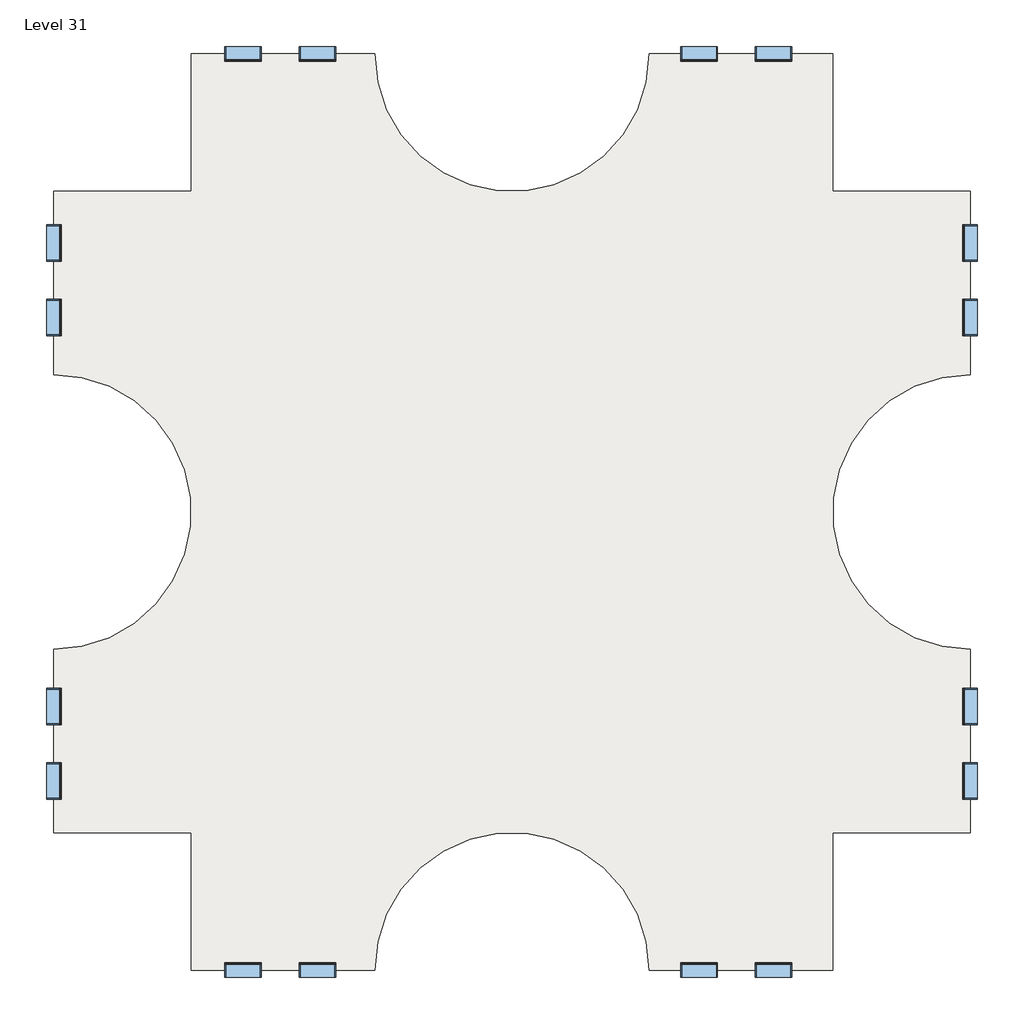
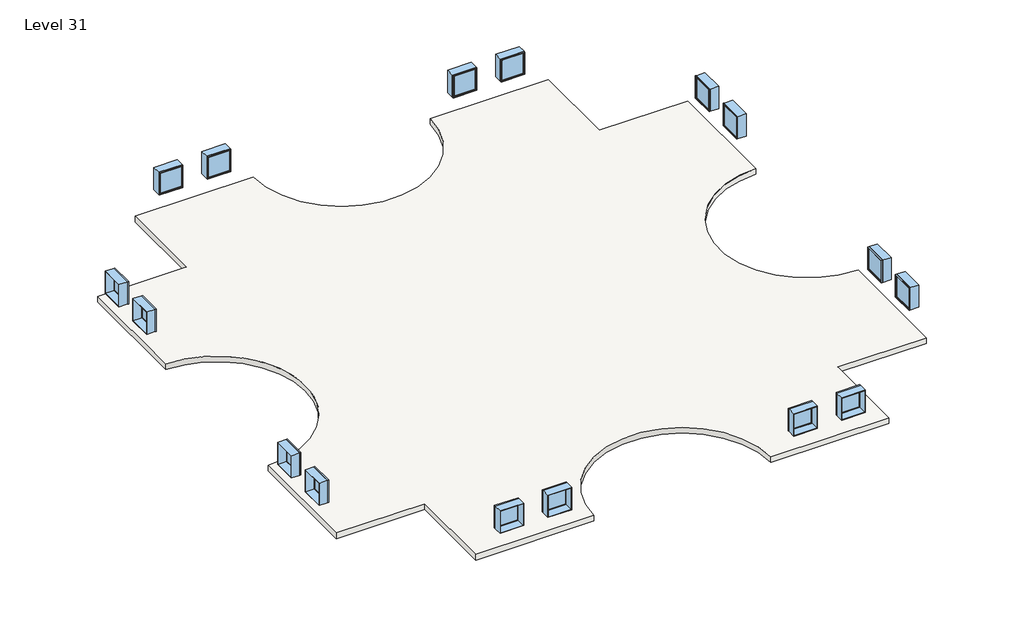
# One storey: 16 windows, 3 slabs.
"""IFC4 building model written with IfcOpenShell, lengths in millimetres."""

import ifcopenshell
import ifcopenshell.guid

model = None  # the IFC model being written
_history = None  # IfcOwnerHistory: only IFC2X3 demands one
_inside = {}  # id of a spatial element -> (the spatial element, [elements in it])
_under = {}  # id of a project, library or spatial element -> (it, [spatial elements below it])
_declared = {}  # id of a project -> (the project, [libraries it declares])
_typed = {}  # id of a type object -> (the type object, [elements of that type])
_made_of = {}  # id of a material, layer set ... -> (it, [elements and type objects made of it])


def new_model(schema):
    """Start an empty IFC model of exactly this schema.

    Asked for "IFC4X3", IfcOpenShell would pick the latest addendum, in which some entities
    have other attributes; the version numbers below select the first issue.
    IFC2X3 requires an IfcOwnerHistory on every rooted entity: one is made here for all.
    """
    global model, _history
    if schema == "IFC4X3":
        model = ifcopenshell.file(schema_version=(4, 3, 0, 0))
    else:
        model = ifcopenshell.file(schema=schema)
    _inside.clear()
    _under.clear()
    _declared.clear()
    _typed.clear()
    _made_of.clear()
    _history = None
    if model.schema == "IFC2X3":
        org = make("IfcOrganization", Name="unknown")
        user = make(
            "IfcPersonAndOrganization",
            ThePerson=make("IfcPerson", FamilyName="unknown"),
            TheOrganization=org,
        )
        app = make(
            "IfcApplication",
            ApplicationDeveloper=org,
            Version="unknown",
            ApplicationFullName="unknown",
            ApplicationIdentifier="unknown",
        )
        _history = make(
            "IfcOwnerHistory",
            OwningUser=user,
            OwningApplication=app,
            ChangeAction="ADDED",
            CreationDate=0,
        )
    return model


def make(cls, **values):
    """One entity of the class cls with the attributes given. An attribute that is None is left unset."""
    return model.create_entity(
        cls, **{name: value for name, value in values.items() if value is not None}
    )


def rooted(cls, **values):
    """An entity with a GlobalId (a new one), such as an element, a storey or a relation."""
    return make(cls, GlobalId=ifcopenshell.guid.new(), OwnerHistory=_history, **values)


def si_unit(unit_type, name, prefix=None):
    """IfcSIUnit, for example si_unit("LENGTHUNIT", "METRE", prefix="MILLI")."""
    return make("IfcSIUnit", UnitType=unit_type, Prefix=prefix, Name=name)


def assignment(units):
    """IfcUnitAssignment: the units of a project."""
    return None if units is None else make("IfcUnitAssignment", Units=units)


def point(xyz):
    """IfcCartesianPoint."""
    return None if xyz is None else make("IfcCartesianPoint", Coordinates=xyz)


def direction(xyz):
    """IfcDirection."""
    return None if xyz is None else make("IfcDirection", DirectionRatios=xyz)


def frame(location, z_axis=None, x_axis=None):
    """IfcAxis2Placement3D, a coordinate frame: its origin and axes. An axis left out is left unset."""
    return make(
        "IfcAxis2Placement3D",
        Location=point(location),
        Axis=direction(z_axis),
        RefDirection=direction(x_axis),
    )


def frame_2d(location, x_axis=None):
    """IfcAxis2Placement2D, a coordinate frame in the plane: its origin and x axis."""
    return make(
        "IfcAxis2Placement2D", Location=point(location), RefDirection=direction(x_axis)
    )


def origin():
    """The frame at (0, 0, 0) with its axes left unset."""
    return frame((0.0, 0.0, 0.0))


def place(relative_to, where):
    """IfcLocalPlacement: puts the frame where relative to a parent placement (None: the world)."""
    return make(
        "IfcLocalPlacement", PlacementRelTo=relative_to, RelativePlacement=where
    )


def context(
    kind, dimensions, precision=None, world=None, true_north=None, identifier=None
):
    """IfcGeometricRepresentationContext, for example the 3D "Model" context."""
    return make(
        "IfcGeometricRepresentationContext",
        ContextIdentifier=identifier,
        ContextType=kind,
        CoordinateSpaceDimension=dimensions,
        Precision=precision,
        WorldCoordinateSystem=world,
        TrueNorth=true_north,
    )


def project(units=None, contexts=None):
    """IfcProject with its units and contexts."""
    return rooted(
        "IfcProject",
        Name="project",
        RepresentationContexts=contexts,
        UnitsInContext=assignment(units),
    )


def spatial(cls, under=None, at=None, **own):
    """A site, building, storey or space (cls), placed at a placement, below another one or the project."""
    s = rooted(cls, ObjectPlacement=at, **own)
    if under is not None:
        _under.setdefault(under.id(), (under, []))[1].append(s)
    return s


def polyline(points):
    """IfcPolyline through the points."""
    return make("IfcPolyline", Points=[point(p) for p in points])


def circle_curve(where, radius):
    """IfcCircle in the frame where."""
    return make("IfcCircle", Position=where, Radius=radius)


def trimmed(basis, trim1, trim2, sense, master):
    """IfcTrimmedCurve: the piece of a basis curve between two trims."""
    return make(
        "IfcTrimmedCurve",
        BasisCurve=basis,
        Trim1=trim1,
        Trim2=trim2,
        SenseAgreement=sense,
        MasterRepresentation=master,
    )


def segment(curve, same_sense, transition):
    """IfcCompositeCurveSegment."""
    return make(
        "IfcCompositeCurveSegment",
        Transition=transition,
        SameSense=same_sense,
        ParentCurve=curve,
    )


def composite_curve(segments, self_intersect=None):
    """IfcCompositeCurve: segments joined end to end."""
    return make("IfcCompositeCurve", Segments=segments, SelfIntersect=self_intersect)


def outline(outer, holes=None, kind="AREA"):
    """IfcArbitraryClosedProfileDef: a profile drawn as a closed curve; with holes, ...WithVoids."""
    if holes is None:
        return make("IfcArbitraryClosedProfileDef", ProfileType=kind, OuterCurve=outer)
    return make(
        "IfcArbitraryProfileDefWithVoids",
        ProfileType=kind,
        OuterCurve=outer,
        InnerCurves=holes,
    )


def extrude(swept, where, along, depth):
    """IfcExtrudedAreaSolid: the profile swept, set in the frame where, extruded along a direction by depth."""
    return make(
        "IfcExtrudedAreaSolid",
        SweptArea=swept,
        Position=where,
        ExtrudedDirection=direction(along),
        Depth=depth,
    )


def shape(context_of_items, identifier, shape_type, items):
    """IfcShapeRepresentation: the items that make up one representation, for example the "Body"."""
    return make(
        "IfcShapeRepresentation",
        ContextOfItems=context_of_items,
        RepresentationIdentifier=identifier,
        RepresentationType=shape_type,
        Items=items,
    )


def source(mapping_origin, context_of_items, identifier, shape_type, items):
    """IfcRepresentationMap: a shape defined once, which mapped items show again and again."""
    return make(
        "IfcRepresentationMap",
        MappingOrigin=mapping_origin,
        MappedRepresentation=shape(context_of_items, identifier, shape_type, items),
    )


def transform(
    local_origin,
    x_axis=None,
    y_axis=None,
    z_axis=None,
    scale=None,
    scale2=None,
    scale3=None,
    uniform=True,
):
    """IfcCartesianTransformationOperator3D, or its non-uniform kind. x_axis, y_axis, z_axis: its Axis1, 2, 3."""
    if uniform:
        return make(
            "IfcCartesianTransformationOperator3D",
            Axis1=direction(x_axis),
            Axis2=direction(y_axis),
            LocalOrigin=point(local_origin),
            Scale=scale,
            Axis3=direction(z_axis),
        )
    return make(
        "IfcCartesianTransformationOperator3DnonUniform",
        Axis1=direction(x_axis),
        Axis2=direction(y_axis),
        LocalOrigin=point(local_origin),
        Scale=scale,
        Axis3=direction(z_axis),
        Scale2=scale2,
        Scale3=scale3,
    )


def mapped(mapping_source, mapping_target):
    """IfcMappedItem: shows the shape of a source again, moved by a transform."""
    return make(
        "IfcMappedItem", MappingSource=mapping_source, MappingTarget=mapping_target
    )


def made_of(thing, what):
    """Note that an element or type object is made of a material, layer set ...; save() writes the relation."""
    if what is not None:
        _made_of.setdefault(what.id(), (what, []))[1].append(thing)
    return thing


def element(
    cls,
    number,
    at=None,
    inside=None,
    cuts=None,
    type_object=None,
    material=None,
    context=None,
    identifier="Body",
    shape_type=None,
    held_by="IfcProductDefinitionShape",
    body=None,
    shapes=None,
    **own,
):
    """One element of the class cls, such as IfcWall. Its Tag is "e" and its number.

    at: its placement. inside: the storey or other place that contains it. cuts: it is an
    opening in that element (IfcRelVoidsElement). A single representation is given by context,
    identifier, shape_type and body (its items); several are given by shapes. held_by: the class
    of the entity that holds the representations. save() writes the other relations.
    """
    e = rooted(cls, Tag="e%d" % number, ObjectPlacement=at, **own)
    if body is not None:
        shapes = [shape(context, identifier, shape_type, body)]
    if shapes is not None:
        e.Representation = make(held_by, Representations=shapes)
    if inside is not None:
        _inside.setdefault(inside.id(), (inside, []))[1].append(e)
    if cuts is not None:
        rooted(
            "IfcRelVoidsElement", RelatingBuildingElement=cuts, RelatedOpeningElement=e
        )
    if type_object is not None:
        _typed.setdefault(type_object.id(), (type_object, []))[1].append(e)
    return made_of(e, material)


def aggregate(whole, parts):
    """IfcRelAggregates: a whole, such as a stair, and the parts it consists of."""
    return rooted("IfcRelAggregates", RelatingObject=whole, RelatedObjects=parts)


def save(model, path):
    """Write the relations noted so far, then the file.

    IfcRelAggregates (storeys below a building ...), IfcRelContainedInSpatialStructure (elements
    in a storey), IfcRelDefinesByType, IfcRelAssociatesMaterial and IfcRelDeclares: one each for
    every whole, place, type object, material and project.
    """
    for whole, parts in _under.values():
        aggregate(whole, parts)
    for where, things in _inside.values():
        rooted(
            "IfcRelContainedInSpatialStructure",
            RelatedElements=things,
            RelatingStructure=where,
        )
    for kind, things in _typed.values():
        rooted("IfcRelDefinesByType", RelatedObjects=things, RelatingType=kind)
    for what, things in _made_of.values():
        rooted("IfcRelAssociatesMaterial", RelatedObjects=things, RelatingMaterial=what)
    for by, libraries in _declared.values():
        rooted("IfcRelDeclares", RelatingContext=by, RelatedDefinitions=libraries)
    model.write(path)


def window_d0035ecf(model_context):
    return source(origin(), model_context, "Body", "SweptSolid", [
        extrude(outline(polyline([(508.0, 200.025), (-584.2, 200.025), (-584.2, 212.725), (508.0, 212.725), (508.0, 200.025)])), frame((0.0, 0.0, 977.9), z_axis=(0.0, 0.0, 1.0), x_axis=(1.0, 0.0, 0.0)), (0.0, 0.0, 1.0), 1092.2),
        extrude(outline(polyline([(2114.55, -628.65), (933.45, -628.65), (933.45, 552.45), (2114.55, 552.45), (2114.55, -628.65)]), holes=[polyline([(2070.1, -584.2), (2070.1, 508.0), (977.9, 508.0), (977.9, -584.2), (2070.1, -584.2)])]), frame((0.0, 184.15, 0.0), z_axis=(0.0, 1.0, 0.0), x_axis=(0.0, 0.0, 1.0)), (0.0, 0.0, 1.0), 44.45),
        extrude(outline(polyline([(2133.6, -647.7), (914.4, -647.7), (914.4, 571.5), (2133.6, 571.5), (2133.6, -647.7)]), holes=[polyline([(2101.85, -615.95), (2101.85, 539.75), (946.15, 539.75), (946.15, -615.95), (2101.85, -615.95)])]), frame((0.0, -247.65, 0.0), z_axis=(0.0, 1.0, 0.0), x_axis=(0.0, 0.0, 1.0)), (0.0, 0.0, 1.0), 431.8),
        extrude(outline(polyline([(2133.6, 571.5), (2133.6, -647.7), (914.4, -647.7), (914.4, 571.5), (2133.6, 571.5)]), holes=[polyline([(2114.55, 552.45), (933.45, 552.45), (933.45, -628.65), (2114.55, -628.65), (2114.55, 552.45)])]), frame((0.0, 184.15, 0.0), z_axis=(0.0, 1.0, 0.0), x_axis=(0.0, 0.0, 1.0)), (0.0, 0.0, 1.0), 63.5),
    ])


def window_d434eb62(model_context):
    return source(origin(), model_context, "Body", "SweptSolid", [
        extrude(outline(polyline([(508.0, -200.025), (508.0, -212.725), (-584.2, -212.725), (-584.2, -200.025), (508.0, -200.025)])), frame((0.0, 0.0, 977.9), z_axis=(0.0, 0.0, 1.0), x_axis=(1.0, 0.0, 0.0)), (0.0, 0.0, 1.0), 1092.2),
        extrude(outline(polyline([(2114.55, -628.65), (933.45, -628.65), (933.45, 552.45), (2114.55, 552.45), (2114.55, -628.65)]), holes=[polyline([(2070.1, -584.2), (2070.1, 508.0), (977.9, 508.0), (977.9, -584.2), (2070.1, -584.2)])]), frame((0.0, -228.6, 0.0), z_axis=(0.0, 1.0, 0.0), x_axis=(0.0, 0.0, 1.0)), (0.0, 0.0, 1.0), 44.45),
        extrude(outline(polyline([(2133.6, -647.7), (914.4, -647.7), (914.4, 571.5), (2133.6, 571.5), (2133.6, -647.7)]), holes=[polyline([(2101.85, -615.95), (2101.85, 539.75), (946.15, 539.75), (946.15, -615.95), (2101.85, -615.95)])]), frame((0.0, -184.15, 0.0), z_axis=(0.0, 1.0, 0.0), x_axis=(0.0, 0.0, 1.0)), (0.0, 0.0, 1.0), 431.8),
        extrude(outline(polyline([(2133.6, 571.5), (2133.6, -647.7), (914.4, -647.7), (914.4, 571.5), (2133.6, 571.5)]), holes=[polyline([(2114.55, 552.45), (933.45, 552.45), (933.45, -628.65), (2114.55, -628.65), (2114.55, 552.45)])]), frame((0.0, -247.65, 0.0), z_axis=(0.0, 1.0, 0.0), x_axis=(0.0, 0.0, 1.0)), (0.0, 0.0, 1.0), 63.5),
    ])


model = new_model("IFC4")

# Units and contexts
model_context = context("Model", 3, world=origin())
ifc_project = project(units=[si_unit("LENGTHUNIT", "METRE", prefix="MILLI")], contexts=[model_context])

# Site, building, storey
site = spatial("IfcSite", under=ifc_project)
building = spatial("IfcBuilding", under=site)
storey = spatial("IfcBuildingStorey", under=building, Name="Level 31", Elevation=91440.0)

# Slabs
placement = place(None, origin())
element("IfcSlab", 1, ObjectType="Generic - 12\"", at=placement, inside=storey, context=model_context, shape_type="SweptSolid", body=[
    extrude(outline(composite_curve([segment(polyline([(-7150.3629456, 4479.6634547), (-7150.3629456, 9051.6634547), (-1054.3629456, 9051.6634547)]), True, "CONTINUOUS"), segment(trimmed(circle_curve(frame_2d((3517.6370544, 9051.6634547)), 4572.0), [point((-1054.3629456, 9051.6634547))], [point((8089.6370544, 9051.6634547))], True, "CARTESIAN"), True, "CONTINUOUS"), segment(polyline([(8089.6370544, 9051.6634547), (14185.6370544, 9051.6634547), (14185.6370544, 4479.6634547), (18757.6370544, 4479.6634547), (18757.6370544, -1616.3365453)]), True, "CONTINUOUS"), segment(trimmed(circle_curve(frame_2d((18757.6370544, -6188.3365453)), 4572.0), [point((18757.6370544, -1616.3365453))], [point((18757.6370544, -10760.3365453))], True, "CARTESIAN"), True, "CONTINUOUS"), segment(polyline([(18757.6370544, -10760.3365453), (18757.6370544, -16856.3365453), (14185.6370544, -16856.3365453), (14185.6370544, -21428.3365453), (8089.6370544, -21428.3365453)]), True, "CONTINUOUS"), segment(trimmed(circle_curve(frame_2d((3517.6370544, -21428.3365453)), 4572.0), [point((8089.6370544, -21428.3365453))], [point((-1054.3629456, -21428.3365453))], True, "CARTESIAN"), True, "CONTINUOUS"), segment(polyline([(-1054.3629456, -21428.3365453), (-7150.3629456, -21428.3365453), (-7150.3629456, -16856.3365453), (-11722.3629456, -16856.3365453), (-11722.3629456, -10760.3365453)]), True, "CONTINUOUS"), segment(trimmed(circle_curve(frame_2d((-11722.3629456, -6188.3365453)), 4572.0), [point((-11722.3629456, -10760.3365453))], [point((-11722.3629456, -1616.3365453))], True, "CARTESIAN"), True, "CONTINUOUS"), segment(polyline([(-11722.3629456, -1616.3365453), (-11722.3629456, 4479.6634547), (-7150.3629456, 4479.6634547)]), True, "CONTINUOUS")], self_intersect=False)), frame((0.0, 0.0, 91135.2), z_axis=(0.0, 0.0, 1.0), x_axis=(1.0, 0.0, 0.0)), (0.0, 0.0, 1.0), 304.8),
])
element("IfcSlab", 2, ObjectType="Generic - 12\"", at=placement, inside=storey, context=model_context, shape_type="SweptSolid", body=[
    extrude(outline(composite_curve([segment(polyline([(-7150.3629456, 4479.6634547), (-7150.3629456, 9051.6634547), (-1054.3629456, 9051.6634547)]), True, "CONTINUOUS"), segment(trimmed(circle_curve(frame_2d((3517.6370544, 9051.6634547)), 4572.0), [point((-1054.3629456, 9051.6634547))], [point((8089.6370544, 9051.6634547))], True, "CARTESIAN"), True, "CONTINUOUS"), segment(polyline([(8089.6370544, 9051.6634547), (14185.6370544, 9051.6634547), (14185.6370544, 4479.6634547), (18757.6370544, 4479.6634547), (18757.6370544, -1616.3365453)]), True, "CONTINUOUS"), segment(trimmed(circle_curve(frame_2d((18757.6370544, -6188.3365453)), 4572.0), [point((18757.6370544, -1616.3365453))], [point((18757.6370544, -10760.3365453))], True, "CARTESIAN"), True, "CONTINUOUS"), segment(polyline([(18757.6370544, -10760.3365453), (18757.6370544, -16856.3365453), (14185.6370544, -16856.3365453), (14185.6370544, -21428.3365453), (8089.6370544, -21428.3365453)]), True, "CONTINUOUS"), segment(trimmed(circle_curve(frame_2d((3517.6370544, -21428.3365453)), 4572.0), [point((8089.6370544, -21428.3365453))], [point((-1054.3629456, -21428.3365453))], True, "CARTESIAN"), True, "CONTINUOUS"), segment(polyline([(-1054.3629456, -21428.3365453), (-7150.3629456, -21428.3365453), (-7150.3629456, -16856.3365453), (-11722.3629456, -16856.3365453), (-11722.3629456, -10760.3365453)]), True, "CONTINUOUS"), segment(trimmed(circle_curve(frame_2d((-11722.3629456, -6188.3365453)), 4572.0), [point((-11722.3629456, -10760.3365453))], [point((-11722.3629456, -1616.3365453))], True, "CARTESIAN"), True, "CONTINUOUS"), segment(polyline([(-11722.3629456, -1616.3365453), (-11722.3629456, 4479.6634547), (-7150.3629456, 4479.6634547)]), True, "CONTINUOUS")], self_intersect=False)), frame((0.0, 0.0, 91135.2), z_axis=(0.0, 0.0, 1.0), x_axis=(1.0, 0.0, 0.0)), (0.0, 0.0, 1.0), 304.8),
])
element("IfcSlab", 3, ObjectType="Generic - 12\"", at=placement, inside=storey, context=model_context, shape_type="SweptSolid", body=[
    extrude(outline(composite_curve([segment(polyline([(-7150.3629456, 4479.6634547), (-7150.3629456, 9051.6634547), (-1054.3629456, 9051.6634547)]), True, "CONTINUOUS"), segment(trimmed(circle_curve(frame_2d((3517.6370544, 9051.6634547)), 4572.0), [point((-1054.3629456, 9051.6634547))], [point((8089.6370544, 9051.6634547))], True, "CARTESIAN"), True, "CONTINUOUS"), segment(polyline([(8089.6370544, 9051.6634547), (14185.6370544, 9051.6634547), (14185.6370544, 4479.6634547), (18757.6370544, 4479.6634547), (18757.6370544, -1616.3365453)]), True, "CONTINUOUS"), segment(trimmed(circle_curve(frame_2d((18757.6370544, -6188.3365453)), 4572.0), [point((18757.6370544, -1616.3365453))], [point((18757.6370544, -10760.3365453))], True, "CARTESIAN"), True, "CONTINUOUS"), segment(polyline([(18757.6370544, -10760.3365453), (18757.6370544, -16856.3365453), (14185.6370544, -16856.3365453), (14185.6370544, -21428.3365453), (8089.6370544, -21428.3365453)]), True, "CONTINUOUS"), segment(trimmed(circle_curve(frame_2d((3517.6370544, -21428.3365453)), 4572.0), [point((8089.6370544, -21428.3365453))], [point((-1054.3629456, -21428.3365453))], True, "CARTESIAN"), True, "CONTINUOUS"), segment(polyline([(-1054.3629456, -21428.3365453), (-7150.3629456, -21428.3365453), (-7150.3629456, -16856.3365453), (-11722.3629456, -16856.3365453), (-11722.3629456, -10760.3365453)]), True, "CONTINUOUS"), segment(trimmed(circle_curve(frame_2d((-11722.3629456, -6188.3365453)), 4572.0), [point((-11722.3629456, -10760.3365453))], [point((-11722.3629456, -1616.3365453))], True, "CARTESIAN"), True, "CONTINUOUS"), segment(polyline([(-11722.3629456, -1616.3365453), (-11722.3629456, 4479.6634547), (-7150.3629456, 4479.6634547)]), True, "CONTINUOUS")], self_intersect=False)), frame((0.0, 0.0, 91135.2), z_axis=(0.0, 0.0, 1.0), x_axis=(1.0, 0.0, 0.0)), (0.0, 0.0, 1.0), 304.8),
])

# Windows
window_shape = window_d0035ecf(model_context)
element("IfcWindow", 4, ObjectType="Fixed : 48\" x 48\"", at=placement, inside=storey, context=model_context, shape_type="MappedRepresentation", body=[
    mapped(window_shape, transform((-11719.1879456, 247.3884547, 91440.0), x_axis=(0.0, -1.0, 0.0), y_axis=(1.0, 0.0, 0.0), z_axis=(0.0, 0.0, 1.0))),
])
element("IfcWindow", 5, ObjectType="Fixed : 48\" x 48\"", at=placement, inside=storey, context=model_context, shape_type="MappedRepresentation", body=[
    mapped(window_shape, transform((-5469.1993281, 9048.4884547, 91440.0), x_axis=(-1.0, 0.0, 0.0), y_axis=(0.0, -1.0, 0.0), z_axis=(0.0, 0.0, 1.0))),
])
element("IfcWindow", 6, ObjectType="Fixed : 48\" x 48\"", at=placement, inside=storey, context=model_context, shape_type="MappedRepresentation", body=[
    mapped(window_shape, transform((-11719.1879456, -15175.1729277, 91440.0), x_axis=(0.0, -1.0, 0.0), y_axis=(1.0, 0.0, 0.0), z_axis=(0.0, 0.0, 1.0))),
])
element("IfcWindow", 7, ObjectType="Fixed : 48\" x 48\"", at=placement, inside=storey, context=model_context, shape_type="MappedRepresentation", body=[
    mapped(window_shape, transform((-2918.0879456, -21425.1615453, 91440.0), x_axis=(1.0, 0.0, 0.0), y_axis=(0.0, 1.0, 0.0), z_axis=(0.0, 0.0, 1.0))),
])
element("IfcWindow", 8, ObjectType="Fixed : 48\" x 48\"", at=placement, inside=storey, context=model_context, shape_type="MappedRepresentation", body=[
    mapped(window_shape, transform((18754.4620544, 2798.4998372, 91440.0), x_axis=(0.0, 1.0, 0.0), y_axis=(-1.0, 0.0, 0.0), z_axis=(0.0, 0.0, 1.0))),
])
element("IfcWindow", 9, ObjectType="Fixed : 48\" x 48\"", at=placement, inside=storey, context=model_context, shape_type="MappedRepresentation", body=[
    mapped(window_shape, transform((9705.7120544, 9048.4884547, 91440.0), x_axis=(-1.0, 0.0, 0.0), y_axis=(0.0, -1.0, 0.0), z_axis=(0.0, 0.0, 1.0))),
])
element("IfcWindow", 10, ObjectType="Fixed : 48\" x 48\"", at=placement, inside=storey, context=model_context, shape_type="MappedRepresentation", body=[
    mapped(window_shape, transform((18754.4620544, -12624.0615453, 91440.0), x_axis=(0.0, 1.0, 0.0), y_axis=(-1.0, 0.0, 0.0), z_axis=(0.0, 0.0, 1.0))),
])
element("IfcWindow", 11, ObjectType="Fixed : 48\" x 48\"", at=placement, inside=storey, context=model_context, shape_type="MappedRepresentation", body=[
    mapped(window_shape, transform((12256.8234368, -21425.1615453, 91440.0), x_axis=(1.0, 0.0, 0.0), y_axis=(0.0, 1.0, 0.0), z_axis=(0.0, 0.0, 1.0))),
])
window_2_shape = window_d434eb62(model_context)
element("IfcWindow", 12, ObjectType="Fixed : 48\" x 48\"", at=placement, inside=storey, context=model_context, shape_type="MappedRepresentation", body=[
    mapped(window_2_shape, transform((-11719.1879456, 2798.4998372, 91440.0), x_axis=(0.0, 1.0, 0.0), y_axis=(-1.0, 0.0, 0.0), z_axis=(0.0, 0.0, 1.0))),
])
element("IfcWindow", 13, ObjectType="Fixed : 48\" x 48\"", at=placement, inside=storey, context=model_context, shape_type="MappedRepresentation", body=[
    mapped(window_2_shape, transform((-2918.0879456, 9048.4884547, 91440.0), x_axis=(1.0, 0.0, 0.0), y_axis=(0.0, 1.0, 0.0), z_axis=(0.0, 0.0, 1.0))),
])
element("IfcWindow", 14, ObjectType="Fixed : 48\" x 48\"", at=placement, inside=storey, context=model_context, shape_type="MappedRepresentation", body=[
    mapped(window_2_shape, transform((-11719.1879456, -12624.0615453, 91440.0), x_axis=(0.0, 1.0, 0.0), y_axis=(-1.0, 0.0, 0.0), z_axis=(0.0, 0.0, 1.0))),
])
element("IfcWindow", 15, ObjectType="Fixed : 48\" x 48\"", at=placement, inside=storey, context=model_context, shape_type="MappedRepresentation", body=[
    mapped(window_2_shape, transform((-5469.1993281, -21425.1615453, 91440.0), x_axis=(-1.0, 0.0, 0.0), y_axis=(0.0, -1.0, 0.0), z_axis=(0.0, 0.0, 1.0))),
])
element("IfcWindow", 16, ObjectType="Fixed : 48\" x 48\"", at=placement, inside=storey, context=model_context, shape_type="MappedRepresentation", body=[
    mapped(window_2_shape, transform((18754.4620544, 247.3884547, 91440.0), x_axis=(0.0, -1.0, 0.0), y_axis=(1.0, 0.0, 0.0), z_axis=(0.0, 0.0, 1.0))),
])
element("IfcWindow", 17, ObjectType="Fixed : 48\" x 48\"", at=placement, inside=storey, context=model_context, shape_type="MappedRepresentation", body=[
    mapped(window_2_shape, transform((12256.8234368, 9048.4884547, 91440.0), x_axis=(1.0, 0.0, 0.0), y_axis=(0.0, 1.0, 0.0), z_axis=(0.0, 0.0, 1.0))),
])
element("IfcWindow", 18, ObjectType="Fixed : 48\" x 48\"", at=placement, inside=storey, context=model_context, shape_type="MappedRepresentation", body=[
    mapped(window_2_shape, transform((18754.4620544, -15175.1729277, 91440.0), x_axis=(0.0, -1.0, 0.0), y_axis=(1.0, 0.0, 0.0), z_axis=(0.0, 0.0, 1.0))),
])
element("IfcWindow", 19, ObjectType="Fixed : 48\" x 48\"", at=placement, inside=storey, context=model_context, shape_type="MappedRepresentation", body=[
    mapped(window_2_shape, transform((9705.7120544, -21425.1615453, 91440.0), x_axis=(-1.0, 0.0, 0.0), y_axis=(0.0, -1.0, 0.0), z_axis=(0.0, 0.0, 1.0))),
])

save(model, "model.ifc")
